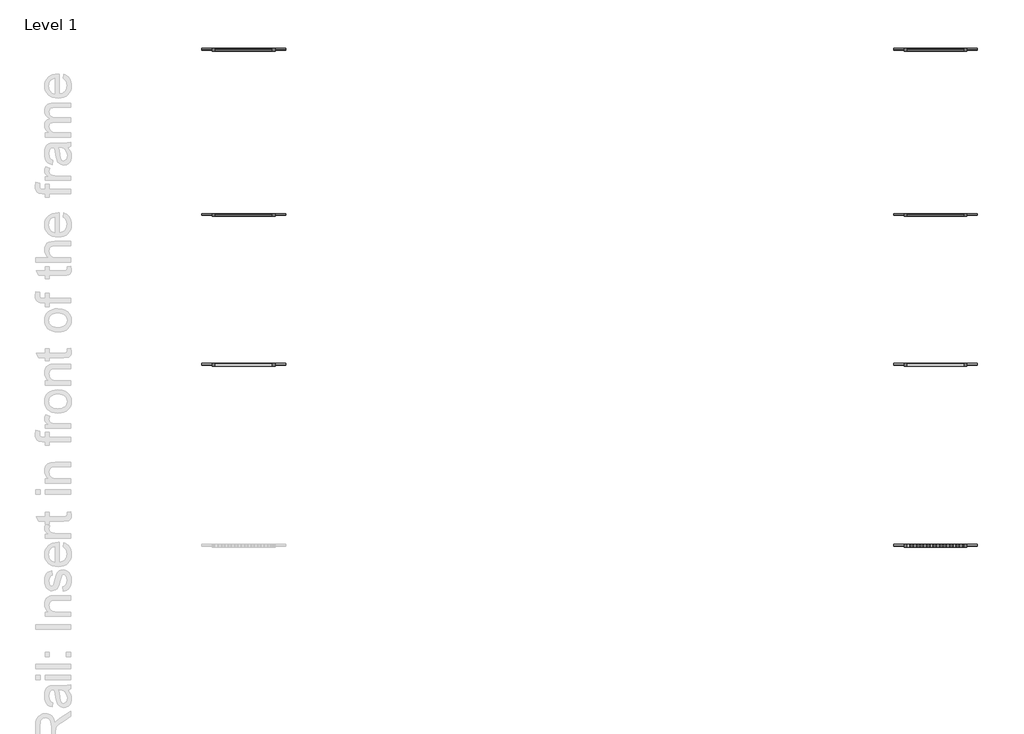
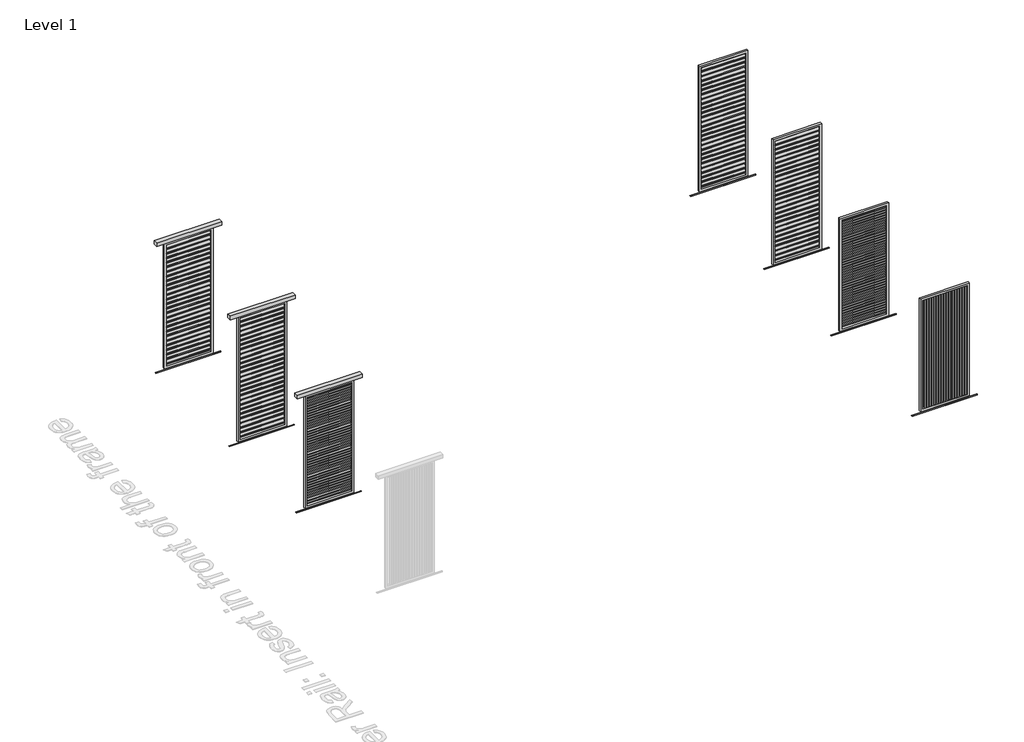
# One storey, part 25 of 80: 7 proxies.
"""IFC4 building model written with IfcOpenShell, lengths in millimetres."""

from ifc_helpers import new_model, si_unit, origin, place, context, project, spatial, transform, mapped, element, save
from components import generic_models_19d24b3a, generic_models_78f2e611, generic_models_c135353b, generic_models_5fc33dbc, generic_models_506817f9

model = new_model("IFC4")

# Units and contexts
model_context = context("Model", 3, world=origin())
ifc_project = project(units=[si_unit("LENGTHUNIT", "METRE", prefix="MILLI")], contexts=[model_context])

# Site, building, storey
site = spatial("IfcSite", under=ifc_project)
building = spatial("IfcBuilding", under=site)
storey = spatial("IfcBuildingStorey", under=building, Name="Level 1", Elevation=0.0)

# Proxies
placement = place(None, origin())
generic_models_shape = generic_models_19d24b3a(model_context)
element("IfcBuildingElementProxy", 1, Name="Renson_Amani_Loggia_Paro_Aluminium_Sliding : Renson_Amani_Loggia_Paro_Aluminium_Sliding", ObjectType="Renson_Amani_Loggia_Paro_Aluminium_Sliding : Renson_Amani_Loggia_Paro_Aluminium_Sliding", at=placement, inside=storey, context=model_context, shape_type="MappedRepresentation", body=[
    mapped(generic_models_shape, transform((419110.5749426, -49269.3676714, 0.0), x_axis=(1.0, 0.0, 0.0), y_axis=(0.0, 1.0, 0.0), z_axis=(0.0, 0.0, 1.0))),
])
generic_models_2_shape = generic_models_78f2e611(model_context)
element("IfcBuildingElementProxy", 2, Name="Renson_Amani_Loggia_Paro_Aluminium_Sliding : Renson_Amani_Loggia_Paro_Aluminium_Sliding", ObjectType="Renson_Amani_Loggia_Paro_Aluminium_Sliding : Renson_Amani_Loggia_Paro_Aluminium_Sliding", at=placement, inside=storey, context=model_context, shape_type="MappedRepresentation", body=[
    mapped(generic_models_2_shape, transform((429010.5749426, -49269.3676714, 0.0), x_axis=(1.0, 0.0, 0.0), y_axis=(0.0, 1.0, 0.0), z_axis=(0.0, 0.0, 1.0))),
])
element("IfcBuildingElementProxy", 3, Name="Renson_Amani_Loggia_Paro_Wood_Sliding : Renson_Amani_Loggia_Paro_Wood_Sliding", ObjectType="Renson_Amani_Loggia_Paro_Wood_Sliding : Renson_Amani_Loggia_Paro_Wood_Sliding", at=placement, inside=storey, context=model_context, shape_type="MappedRepresentation", body=[
    mapped(generic_models_shape, transform((419110.5749426, -51632.8726434, 0.0), x_axis=(1.0, 0.0, 0.0), y_axis=(0.0, 1.0, 0.0), z_axis=(0.0, 0.0, 1.0))),
])
element("IfcBuildingElementProxy", 4, Name="Renson_Amani_Loggia_Paro_Wood_Sliding : Renson_Amani_Loggia_Paro_Wood_Sliding", ObjectType="Renson_Amani_Loggia_Paro_Wood_Sliding : Renson_Amani_Loggia_Paro_Wood_Sliding", at=placement, inside=storey, context=model_context, shape_type="MappedRepresentation", body=[
    mapped(generic_models_2_shape, transform((429010.5749426, -51632.8726434, 0.0), x_axis=(1.0, 0.0, 0.0), y_axis=(0.0, 1.0, 0.0), z_axis=(0.0, 0.0, 1.0))),
])
generic_models_3_shape = generic_models_c135353b(model_context)
element("IfcBuildingElementProxy", 5, Name="Renson_Amani_Loggia_Plano_Sliding : Renson_Amani_Loggia_Plano_Sliding", ObjectType="Renson_Amani_Loggia_Plano_Sliding : Renson_Amani_Loggia_Plano_Sliding", at=placement, inside=storey, context=model_context, shape_type="MappedRepresentation", body=[
    mapped(generic_models_3_shape, transform((419110.5749426, -53778.182137, 0.0), x_axis=(1.0, 0.0, 0.0), y_axis=(0.0, 1.0, 0.0), z_axis=(0.0, 0.0, 1.0))),
])
generic_models_4_shape = generic_models_5fc33dbc(model_context)
element("IfcBuildingElementProxy", 6, Name="Renson_Amani_Loggia_Plano_Sliding : Renson_Amani_Loggia_Plano_Sliding", ObjectType="Renson_Amani_Loggia_Plano_Sliding : Renson_Amani_Loggia_Plano_Sliding", at=placement, inside=storey, context=model_context, shape_type="MappedRepresentation", body=[
    mapped(generic_models_4_shape, transform((429010.5749426, -53778.182137, 0.0), x_axis=(1.0, 0.0, 0.0), y_axis=(0.0, 1.0, 0.0), z_axis=(0.0, 0.0, 1.0))),
])
generic_models_5_shape = generic_models_506817f9(model_context)
element("IfcBuildingElementProxy", 7, Name="Renson_Amani_Loggia_Linea_Sliding : Renson_Amani_Loggia_Linea_Sliding", ObjectType="Renson_Amani_Loggia_Linea_Sliding : Renson_Amani_Loggia_Linea_Sliding", at=placement, inside=storey, context=model_context, shape_type="MappedRepresentation", body=[
    mapped(generic_models_5_shape, transform((429010.5749426, -56367.7318611, 0.0), x_axis=(1.0, 0.0, 0.0), y_axis=(0.0, 1.0, 0.0), z_axis=(0.0, 0.0, 1.0))),
])

save(model, "model.ifc")
